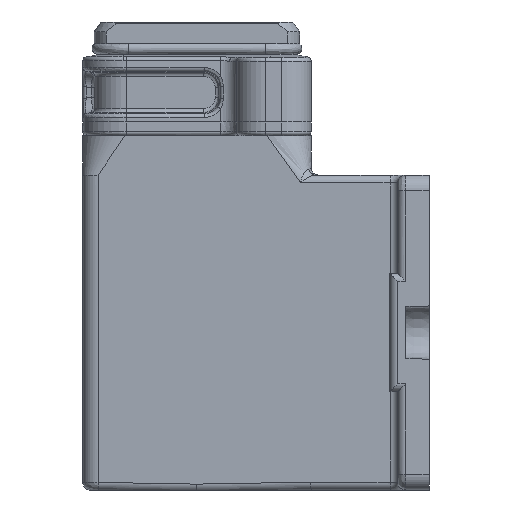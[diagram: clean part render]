
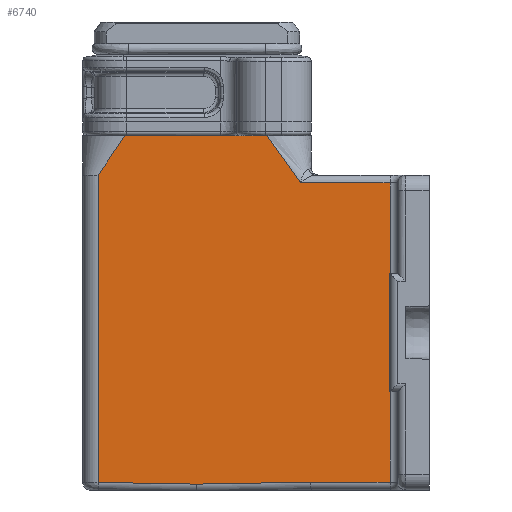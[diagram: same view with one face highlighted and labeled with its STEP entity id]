
A CAD part, left-side view. The second image highlights one B-rep face of the part: STEP entity #6740.
In plain terms, the highlighted planar face has unit normal (-1, 0.026, 0).
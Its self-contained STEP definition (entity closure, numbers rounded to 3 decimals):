
#2848=(
BOUNDED_CURVE()
B_SPLINE_CURVE(3,(#27715,#27716,#27717,#27718,#27719,#27720,#27721,#27722,
#27723,#27724),.UNSPECIFIED.,.F.,.F.)
B_SPLINE_CURVE_WITH_KNOTS((4,3,3,4),(0.,0.16,0.44,1.),.UNSPECIFIED.)
CURVE()
GEOMETRIC_REPRESENTATION_ITEM()
RATIONAL_B_SPLINE_CURVE((1.,1.,1.,1.,1.,1.,1.,1.,1.,1.))
REPRESENTATION_ITEM('')
);
#2849=(
BOUNDED_CURVE()
B_SPLINE_CURVE(3,(#27729,#27730,#27731,#27732,#27733,#27734,#27735,#27736,
#27737,#27738),.UNSPECIFIED.,.F.,.F.)
B_SPLINE_CURVE_WITH_KNOTS((4,3,3,4),(0.,0.56,0.84,1.),.UNSPECIFIED.)
CURVE()
GEOMETRIC_REPRESENTATION_ITEM()
RATIONAL_B_SPLINE_CURVE((1.,1.,1.,1.,1.,1.,1.,1.,1.,1.))
REPRESENTATION_ITEM('')
);
#3831=LINE('',#26624,#5276);
#3973=LINE('',#27708,#5418);
#3974=LINE('',#27711,#5419);
#3975=LINE('',#27713,#5420);
#3976=LINE('',#27726,#5421);
#3977=LINE('',#27727,#5422);
#3978=LINE('',#27740,#5423);
#3979=LINE('',#27742,#5424);
#3980=LINE('',#27744,#5425);
#3981=LINE('',#27746,#5426);
#3982=LINE('',#27748,#5427);
#3983=LINE('',#27750,#5428);
#3984=LINE('',#27752,#5429);
#5276=VECTOR('',#21923,1.);
#5418=VECTOR('',#22267,1.);
#5419=VECTOR('',#22268,1.);
#5420=VECTOR('',#22269,1.);
#5421=VECTOR('',#22270,1.);
#5422=VECTOR('',#22271,1.);
#5423=VECTOR('',#22272,1.);
#5424=VECTOR('',#22273,1.);
#5425=VECTOR('',#22274,1.);
#5426=VECTOR('',#22275,1.);
#5427=VECTOR('',#22276,1.);
#5428=VECTOR('',#22277,1.);
#5429=VECTOR('',#22278,1.);
#6740=ADVANCED_FACE('',(#8236),#7731,.T.);
#7731=PLANE('',#20362);
#8236=FACE_OUTER_BOUND('',#9186,.T.);
#9186=EDGE_LOOP('',(#10594,#10595,#10596,#10597,#10598,#10599,#10600,#10601,
#10602,#10603,#10604,#10605,#10606,#10607,#10608));
#10594=ORIENTED_EDGE('',*,*,#17084,.F.);
#10595=ORIENTED_EDGE('',*,*,#17085,.T.);
#10596=ORIENTED_EDGE('',*,*,#17086,.T.);
#10597=ORIENTED_EDGE('',*,*,#17087,.T.);
#10598=ORIENTED_EDGE('',*,*,#17088,.T.);
#10599=ORIENTED_EDGE('',*,*,#16831,.T.);
#10600=ORIENTED_EDGE('',*,*,#17089,.T.);
#10601=ORIENTED_EDGE('',*,*,#17090,.T.);
#10602=ORIENTED_EDGE('',*,*,#17091,.T.);
#10603=ORIENTED_EDGE('',*,*,#17092,.T.);
#10604=ORIENTED_EDGE('',*,*,#17093,.T.);
#10605=ORIENTED_EDGE('',*,*,#17094,.T.);
#10606=ORIENTED_EDGE('',*,*,#17095,.T.);
#10607=ORIENTED_EDGE('',*,*,#17096,.T.);
#10608=ORIENTED_EDGE('',*,*,#17097,.T.);
#15268=VERTEX_POINT('',#26625);
#15269=VERTEX_POINT('',#26626);
#15490=VERTEX_POINT('',#27709);
#15491=VERTEX_POINT('',#27710);
#15492=VERTEX_POINT('',#27712);
#15493=VERTEX_POINT('',#27714);
#15494=VERTEX_POINT('',#27725);
#15495=VERTEX_POINT('',#27728);
#15496=VERTEX_POINT('',#27739);
#15497=VERTEX_POINT('',#27741);
#15498=VERTEX_POINT('',#27743);
#15499=VERTEX_POINT('',#27745);
#15500=VERTEX_POINT('',#27747);
#15501=VERTEX_POINT('',#27749);
#15502=VERTEX_POINT('',#27751);
#16831=EDGE_CURVE('',#15268,#15269,#3831,.T.);
#17084=EDGE_CURVE('',#15490,#15491,#3973,.T.);
#17085=EDGE_CURVE('',#15490,#15492,#3974,.T.);
#17086=EDGE_CURVE('',#15492,#15493,#3975,.T.);
#17087=EDGE_CURVE('',#15493,#15494,#2848,.T.);
#17088=EDGE_CURVE('',#15494,#15268,#3976,.T.);
#17089=EDGE_CURVE('',#15269,#15495,#3977,.T.);
#17090=EDGE_CURVE('',#15495,#15496,#2849,.T.);
#17091=EDGE_CURVE('',#15496,#15497,#3978,.T.);
#17092=EDGE_CURVE('',#15497,#15498,#3979,.T.);
#17093=EDGE_CURVE('',#15498,#15499,#3980,.T.);
#17094=EDGE_CURVE('',#15499,#15500,#3981,.T.);
#17095=EDGE_CURVE('',#15500,#15501,#3982,.T.);
#17096=EDGE_CURVE('',#15501,#15502,#3983,.T.);
#17097=EDGE_CURVE('',#15502,#15491,#3984,.T.);
#20362=AXIS2_PLACEMENT_3D('',#27753,#22279,#22280);
#21923=DIRECTION('',(0.026,1.,0.));
#22267=DIRECTION('',(0.026,1.,0.));
#22268=DIRECTION('',(0.,0.,1.));
#22269=DIRECTION('',(0.026,1.,0.));
#22270=DIRECTION('',(0.026,1.,0.));
#22271=DIRECTION('',(0.026,1.,0.));
#22272=DIRECTION('',(0.,0.,-1.));
#22273=DIRECTION('',(-0.026,-1.,-0.017));
#22274=DIRECTION('',(-0.026,-1.,0.017));
#22275=DIRECTION('',(-0.026,-1.,0.));
#22276=DIRECTION('',(0.,0.,1.));
#22277=DIRECTION('',(0.026,1.,0.));
#22278=DIRECTION('',(0.,0.,1.));
#22279=DIRECTION('',(-1.,0.026,0.));
#22280=DIRECTION('',(-0.026,-1.,0.));
#26624=CARTESIAN_POINT('',(-78.6,-51.,0.));
#26625=CARTESIAN_POINT('',(-77.473,-7.951,0.));
#26626=CARTESIAN_POINT('',(-76.906,13.676,0.));
#27708=CARTESIAN_POINT('',(-78.6,-51.,-35.));
#27709=CARTESIAN_POINT('',(-78.549,-49.052,-35.));
#27710=CARTESIAN_POINT('',(-78.548,-49.,-35.));
#27711=CARTESIAN_POINT('',(-78.549,-49.052,-10.));
#27712=CARTESIAN_POINT('',(-78.549,-49.052,-12.));
#27713=CARTESIAN_POINT('',(-78.6,-51.,-12.));
#27714=CARTESIAN_POINT('',(-77.954,-26.332,-12.));
#27715=CARTESIAN_POINT('',(-78.024,-29.,-15.714));
#27716=CARTESIAN_POINT('',(-77.988,-27.632,-13.81));
#27717=CARTESIAN_POINT('',(-77.952,-26.264,-11.905));
#27718=CARTESIAN_POINT('',(-77.916,-24.895,-10.));
#27719=CARTESIAN_POINT('',(-77.854,-22.501,-6.667));
#27720=CARTESIAN_POINT('',(-77.791,-20.106,-3.333));
#27721=CARTESIAN_POINT('',(-77.728,-17.712,0.));
#27722=CARTESIAN_POINT('',(-77.603,-12.923,6.667));
#27723=CARTESIAN_POINT('',(-77.478,-8.134,13.333));
#27724=CARTESIAN_POINT('',(-77.352,-3.346,20.));
#27725=CARTESIAN_POINT('',(-77.728,-17.712,0.));
#27726=CARTESIAN_POINT('',(-78.6,-51.,0.));
#27727=CARTESIAN_POINT('',(-78.6,-51.,0.));
#27728=CARTESIAN_POINT('',(-76.786,18.288,0.));
#27729=CARTESIAN_POINT('',(-77.143,4.654,20.));
#27730=CARTESIAN_POINT('',(-77.024,9.199,13.333));
#27731=CARTESIAN_POINT('',(-76.905,13.743,6.667));
#27732=CARTESIAN_POINT('',(-76.786,18.288,0.));
#27733=CARTESIAN_POINT('',(-76.726,20.56,-3.333));
#27734=CARTESIAN_POINT('',(-76.667,22.832,-6.667));
#27735=CARTESIAN_POINT('',(-76.607,25.105,-10.));
#27736=CARTESIAN_POINT('',(-76.573,26.403,-11.905));
#27737=CARTESIAN_POINT('',(-76.539,27.702,-13.81));
#27738=CARTESIAN_POINT('',(-76.505,29.,-15.714));
#27739=CARTESIAN_POINT('',(-76.607,25.105,-10.));
#27740=CARTESIAN_POINT('',(-76.607,25.105,-90.));
#27741=CARTESIAN_POINT('',(-76.607,25.105,-88.069));
#27742=CARTESIAN_POINT('',(-77.265,-0.035,-88.507));
#27743=CARTESIAN_POINT('',(-77.263,0.052,-88.506));
#27744=CARTESIAN_POINT('',(-78.023,-28.965,-87.999));
#27745=CARTESIAN_POINT('',(-78.022,-28.93,-88.));
#27746=CARTESIAN_POINT('',(-78.6,-51.,-88.));
#27747=CARTESIAN_POINT('',(-78.549,-49.052,-88.));
#27748=CARTESIAN_POINT('',(-78.549,-49.052,-65.));
#27749=CARTESIAN_POINT('',(-78.549,-49.052,-65.));
#27750=CARTESIAN_POINT('',(-78.6,-51.,-65.));
#27751=CARTESIAN_POINT('',(-78.548,-49.,-65.));
#27752=CARTESIAN_POINT('',(-78.548,-49.,-90.));
#27753=CARTESIAN_POINT('',(-78.6,-51.,-90.));
